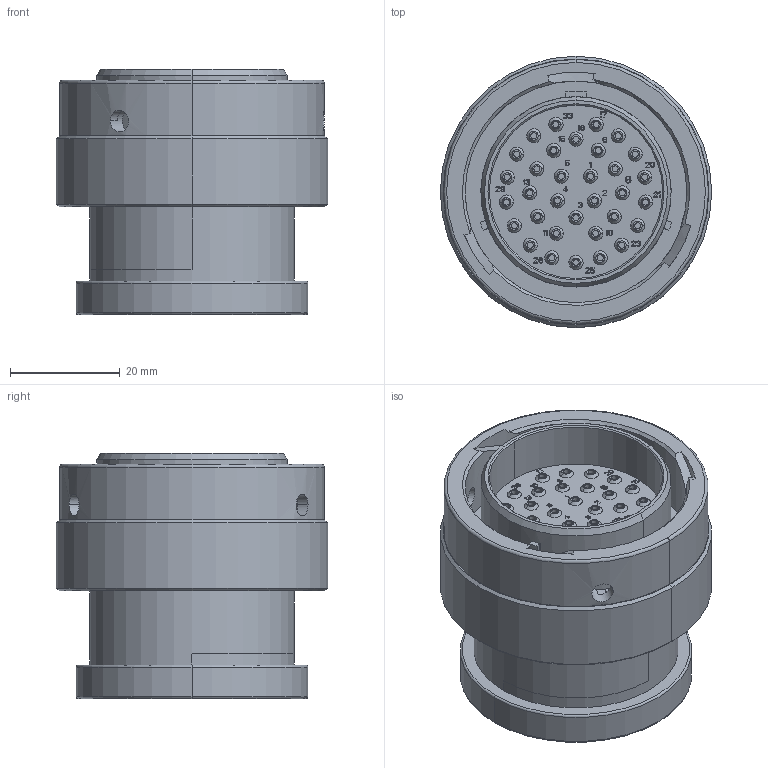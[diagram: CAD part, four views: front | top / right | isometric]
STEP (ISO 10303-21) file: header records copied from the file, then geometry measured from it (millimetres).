
FILE_DESCRIPTION((''),'2;1');
FILE_NAME('C-HDP26-24-33PN-L017','2013-07-27T',('workeradm'),('Tyco Electronics Ltd.'),'PRO/ENGINEER BY PARAMETRIC TECHNOLOGY CORPORATION, 2011490','PRO/ENGINEER BY PARAMETRIC TECHNOLOGY CORPORATION, 2011490','');
FILE_SCHEMA(('AUTOMOTIVE_DESIGN { 1 0 10303 214 1 1 1 1 }'));
Length unit declared in the file: millimetre
Products named in the file (1): C-HDP26-24-33PN-L017
Bounding box: 49.53 x 49.53 x 44.73 mm (x, y, z)
Volume: 51552.7 mm3; surface area: 15889.1 mm2
Topology: 1 solids, 1 shells, 1708 faces, 4493 edges, 2965 vertices
Faces by surface type: plane 1277, cylinder 240, cone 77, torus 74, bspline 34, extrusion 6
Entity records: 56640 total; most frequent: CARTESIAN_POINT 13835, ORIENTED_EDGE 8986, DIRECTION 8341, EDGE_CURVE 4493, VECTOR 3625, LINE 3619, VERTEX_POINT 2965, AXIS2_PLACEMENT_3D 2358
